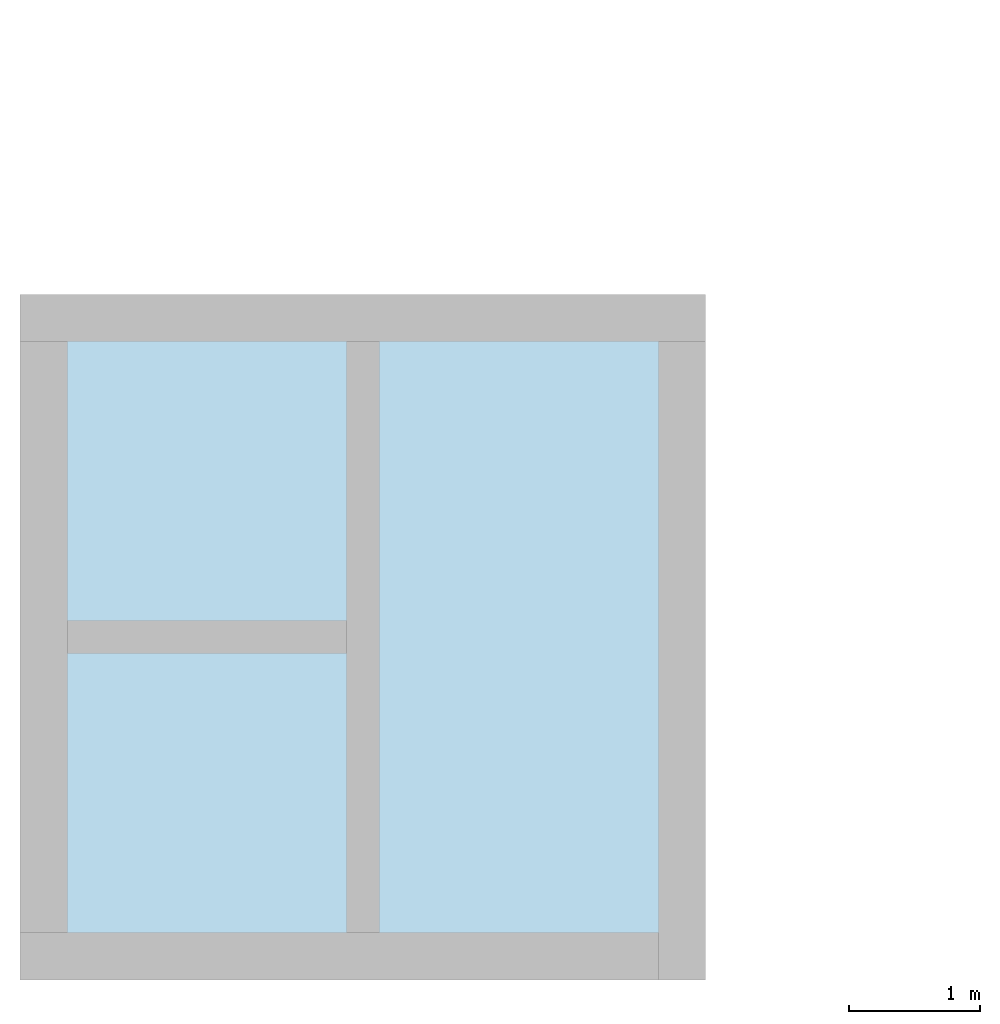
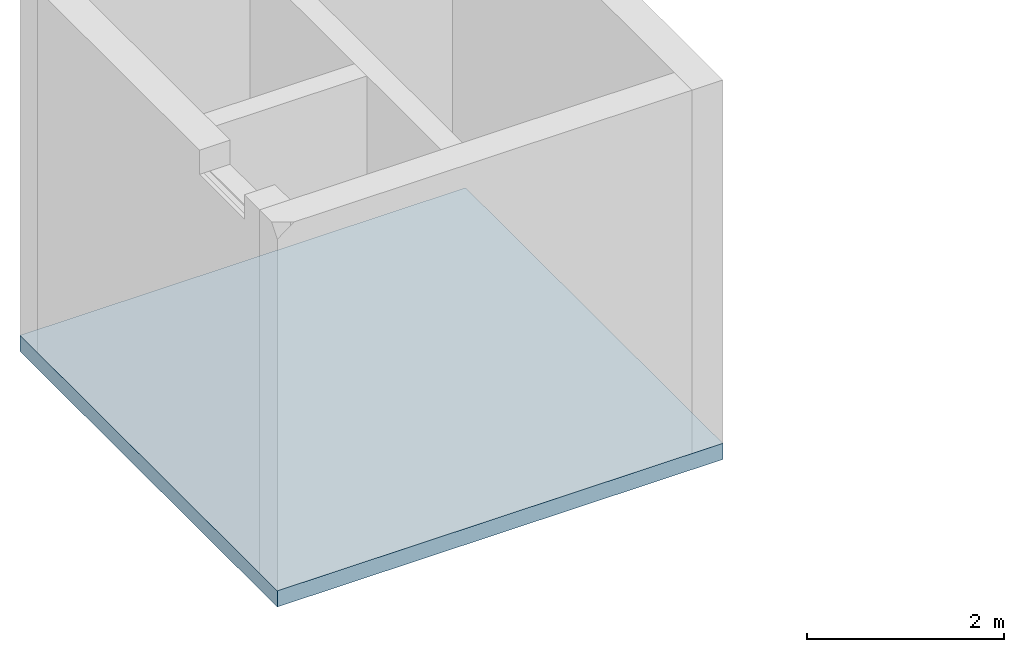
# One storey, part 2 of 5: 1 slab.
"""IFC2X3 building model written with IfcOpenShell, lengths in millimetres."""

import ifcopenshell
import ifcopenshell.guid

model = None  # the IFC model being written
_history = None  # IfcOwnerHistory: only IFC2X3 demands one
_inside = {}  # id of a spatial element -> (the spatial element, [elements in it])
_under = {}  # id of a project, library or spatial element -> (it, [spatial elements below it])
_declared = {}  # id of a project -> (the project, [libraries it declares])
_typed = {}  # id of a type object -> (the type object, [elements of that type])
_made_of = {}  # id of a material, layer set ... -> (it, [elements and type objects made of it])


def new_model(schema):
    """Start an empty IFC model of exactly this schema.

    Asked for "IFC4X3", IfcOpenShell would pick the latest addendum, in which some entities
    have other attributes; the version numbers below select the first issue.
    IFC2X3 requires an IfcOwnerHistory on every rooted entity: one is made here for all.
    """
    global model, _history
    if schema == "IFC4X3":
        model = ifcopenshell.file(schema_version=(4, 3, 0, 0))
    else:
        model = ifcopenshell.file(schema=schema)
    _inside.clear()
    _under.clear()
    _declared.clear()
    _typed.clear()
    _made_of.clear()
    _history = None
    if model.schema == "IFC2X3":
        org = make("IfcOrganization", Name="unknown")
        user = make(
            "IfcPersonAndOrganization",
            ThePerson=make("IfcPerson", FamilyName="unknown"),
            TheOrganization=org,
        )
        app = make(
            "IfcApplication",
            ApplicationDeveloper=org,
            Version="unknown",
            ApplicationFullName="unknown",
            ApplicationIdentifier="unknown",
        )
        _history = make(
            "IfcOwnerHistory",
            OwningUser=user,
            OwningApplication=app,
            ChangeAction="ADDED",
            CreationDate=0,
        )
    return model


def make(cls, **values):
    """One entity of the class cls with the attributes given. An attribute that is None is left unset."""
    return model.create_entity(
        cls, **{name: value for name, value in values.items() if value is not None}
    )


def entity(cls, *values):
    """Any entity or typed value of the class cls, its attributes in the order of the schema. None: left unset."""
    e = model.create_entity(cls)
    for i, value in enumerate(values):
        if value is not None:
            e[i] = value
    return e


def rooted(cls, **values):
    """An entity with a GlobalId (a new one), such as an element, a storey or a relation."""
    return make(cls, GlobalId=ifcopenshell.guid.new(), OwnerHistory=_history, **values)


def si_unit(unit_type, name, prefix=None):
    """IfcSIUnit, for example si_unit("LENGTHUNIT", "METRE", prefix="MILLI")."""
    return make("IfcSIUnit", UnitType=unit_type, Prefix=prefix, Name=name)


def converted_unit(unit_type, name, factor, base, dimensions=None, offset=None):
    """IfcConversionBasedUnit, such as the inch: factor (a typed value) times the base unit."""
    return make(
        "IfcConversionBasedUnit"
        if offset is None
        else "IfcConversionBasedUnitWithOffset",
        ConversionOffset=offset,
        Dimensions=None
        if dimensions is None
        else entity("IfcDimensionalExponents", *dimensions),
        UnitType=unit_type,
        Name=name,
        ConversionFactor=make(
            "IfcMeasureWithUnit", ValueComponent=factor, UnitComponent=base
        ),
    )


def derived_unit(unit_type, elements):
    """IfcDerivedUnit: a product of units, each with its exponent."""
    return make(
        "IfcDerivedUnit",
        Elements=[
            make("IfcDerivedUnitElement", Unit=unit, Exponent=power)
            for unit, power in elements
        ],
        UnitType=unit_type,
    )


def assignment(units):
    """IfcUnitAssignment: the units of a project."""
    return None if units is None else make("IfcUnitAssignment", Units=units)


def point(xyz):
    """IfcCartesianPoint."""
    return None if xyz is None else make("IfcCartesianPoint", Coordinates=xyz)


def direction(xyz):
    """IfcDirection."""
    return None if xyz is None else make("IfcDirection", DirectionRatios=xyz)


def frame(location, z_axis=None, x_axis=None):
    """IfcAxis2Placement3D, a coordinate frame: its origin and axes. An axis left out is left unset."""
    return make(
        "IfcAxis2Placement3D",
        Location=point(location),
        Axis=direction(z_axis),
        RefDirection=direction(x_axis),
    )


def frame_2d(location, x_axis=None):
    """IfcAxis2Placement2D, a coordinate frame in the plane: its origin and x axis."""
    return make(
        "IfcAxis2Placement2D", Location=point(location), RefDirection=direction(x_axis)
    )


def origin():
    """The frame at (0, 0, 0) with its axes left unset."""
    return frame((0.0, 0.0, 0.0))


def place(relative_to, where):
    """IfcLocalPlacement: puts the frame where relative to a parent placement (None: the world)."""
    return make(
        "IfcLocalPlacement", PlacementRelTo=relative_to, RelativePlacement=where
    )


def context(
    kind, dimensions, precision=None, world=None, true_north=None, identifier=None
):
    """IfcGeometricRepresentationContext, for example the 3D "Model" context."""
    return make(
        "IfcGeometricRepresentationContext",
        ContextIdentifier=identifier,
        ContextType=kind,
        CoordinateSpaceDimension=dimensions,
        Precision=precision,
        WorldCoordinateSystem=world,
        TrueNorth=true_north,
    )


def subcontext(parent, identifier, kind, view, scale=None):
    """IfcGeometricRepresentationSubContext, for example "Body" below "Model"."""
    return make(
        "IfcGeometricRepresentationSubContext",
        ContextIdentifier=identifier,
        ContextType=kind,
        ParentContext=parent,
        TargetScale=scale,
        TargetView=view,
    )


def project(units=None, contexts=None):
    """IfcProject with its units and contexts."""
    return rooted(
        "IfcProject",
        Name="project",
        RepresentationContexts=contexts,
        UnitsInContext=assignment(units),
    )


def spatial(cls, under=None, at=None, **own):
    """A site, building, storey or space (cls), placed at a placement, below another one or the project."""
    s = rooted(cls, ObjectPlacement=at, **own)
    if under is not None:
        _under.setdefault(under.id(), (under, []))[1].append(s)
    return s


def profile(cls, at=None, kind="AREA", **sizes):
    """A parametric profile (cls). Its sizes go by their IFC names, for example OverallWidth=200.0."""
    return make(cls, ProfileType=kind, Position=at, **sizes)


def rectangle(**sizes):
    """IfcRectangleProfileDef."""
    return profile("IfcRectangleProfileDef", **sizes)


def extrude(swept, where, along, depth):
    """IfcExtrudedAreaSolid: the profile swept, set in the frame where, extruded along a direction by depth."""
    return make(
        "IfcExtrudedAreaSolid",
        SweptArea=swept,
        Position=where,
        ExtrudedDirection=direction(along),
        Depth=depth,
    )


def shape(context_of_items, identifier, shape_type, items):
    """IfcShapeRepresentation: the items that make up one representation, for example the "Body"."""
    return make(
        "IfcShapeRepresentation",
        ContextOfItems=context_of_items,
        RepresentationIdentifier=identifier,
        RepresentationType=shape_type,
        Items=items,
    )


def material(Name=None, Category=None):
    """IfcMaterial."""
    return make("IfcMaterial", Name=Name, Category=Category)


def layer(
    of_material, thickness, ventilated=None, Name=None, Category=None, Priority=None
):
    """IfcMaterialLayer: one layer of a wall or slab, of a material (None: an air gap)."""
    return make(
        "IfcMaterialLayer",
        Material=of_material,
        LayerThickness=thickness,
        IsVentilated=ventilated,
        Name=Name,
        Category=Category,
        Priority=Priority,
    )


def layer_set(layers, Name=None):
    """IfcMaterialLayerSet."""
    return make("IfcMaterialLayerSet", MaterialLayers=layers, LayerSetName=Name)


def layer_usage(for_layer_set, set_direction, sense, offset, extent=None):
    """IfcMaterialLayerSetUsage: how a layer set lies in its element."""
    return make(
        "IfcMaterialLayerSetUsage",
        ForLayerSet=for_layer_set,
        LayerSetDirection=set_direction,
        DirectionSense=sense,
        OffsetFromReferenceLine=offset,
        ReferenceExtent=extent,
    )


def made_of(thing, what):
    """Note that an element or type object is made of a material, layer set ...; save() writes the relation."""
    if what is not None:
        _made_of.setdefault(what.id(), (what, []))[1].append(thing)
    return thing


def type_object(cls, material=None, **own):
    """A type object (cls), such as IfcWallType, which elements share."""
    return made_of(rooted(cls, **own), material)


def element(
    cls,
    number,
    at=None,
    inside=None,
    cuts=None,
    type_object=None,
    material=None,
    context=None,
    identifier="Body",
    shape_type=None,
    held_by="IfcProductDefinitionShape",
    body=None,
    shapes=None,
    **own,
):
    """One element of the class cls, such as IfcWall. Its Tag is "e" and its number.

    at: its placement. inside: the storey or other place that contains it. cuts: it is an
    opening in that element (IfcRelVoidsElement). A single representation is given by context,
    identifier, shape_type and body (its items); several are given by shapes. held_by: the class
    of the entity that holds the representations. save() writes the other relations.
    """
    e = rooted(cls, Tag="e%d" % number, ObjectPlacement=at, **own)
    if body is not None:
        shapes = [shape(context, identifier, shape_type, body)]
    if shapes is not None:
        e.Representation = make(held_by, Representations=shapes)
    if inside is not None:
        _inside.setdefault(inside.id(), (inside, []))[1].append(e)
    if cuts is not None:
        rooted(
            "IfcRelVoidsElement", RelatingBuildingElement=cuts, RelatedOpeningElement=e
        )
    if type_object is not None:
        _typed.setdefault(type_object.id(), (type_object, []))[1].append(e)
    return made_of(e, material)


def aggregate(whole, parts):
    """IfcRelAggregates: a whole, such as a stair, and the parts it consists of."""
    return rooted("IfcRelAggregates", RelatingObject=whole, RelatedObjects=parts)


def save(model, path):
    """Write the relations noted so far, then the file.

    IfcRelAggregates (storeys below a building ...), IfcRelContainedInSpatialStructure (elements
    in a storey), IfcRelDefinesByType, IfcRelAssociatesMaterial and IfcRelDeclares: one each for
    every whole, place, type object, material and project.
    """
    for whole, parts in _under.values():
        aggregate(whole, parts)
    for where, things in _inside.values():
        rooted(
            "IfcRelContainedInSpatialStructure",
            RelatedElements=things,
            RelatingStructure=where,
        )
    for kind, things in _typed.values():
        rooted("IfcRelDefinesByType", RelatedObjects=things, RelatingType=kind)
    for what, things in _made_of.values():
        rooted("IfcRelAssociatesMaterial", RelatedObjects=things, RelatingMaterial=what)
    for by, libraries in _declared.values():
        rooted("IfcRelDeclares", RelatingContext=by, RelatedDefinitions=libraries)
    model.write(path)


model = new_model("IFC2X3")

# Units and contexts
model_context = context("Model", 3, precision=0.01, world=origin(), true_north=direction((6.123031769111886e-17, 1.0)))
body_context = subcontext(model_context, "Body", "Model", "MODEL_VIEW")
ifc_project = project(units=[si_unit("LENGTHUNIT", "METRE", prefix="MILLI"), si_unit("AREAUNIT", "SQUARE_METRE"), si_unit("VOLUMEUNIT", "CUBIC_METRE"), converted_unit("PLANEANGLEUNIT", "DEGREE", entity("IfcRatioMeasure", 0.017453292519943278), si_unit("PLANEANGLEUNIT", "RADIAN"), dimensions=[0, 0, 0, 0, 0, 0, 0]), si_unit("MASSUNIT", "GRAM", prefix="KILO"), derived_unit("MASSDENSITYUNIT", [(si_unit("MASSUNIT", "GRAM", prefix="KILO"), 1), (si_unit("LENGTHUNIT", "METRE"), -3)]), derived_unit("IONCONCENTRATIONUNIT", [(si_unit("MASSUNIT", "GRAM", prefix="KILO"), 1), (si_unit("LENGTHUNIT", "METRE"), -3)]), derived_unit("MOMENTOFINERTIAUNIT", [(si_unit("LENGTHUNIT", "METRE"), 4)]), si_unit("TIMEUNIT", "SECOND"), si_unit("FREQUENCYUNIT", "HERTZ"), si_unit("THERMODYNAMICTEMPERATUREUNIT", "DEGREE_CELSIUS"), derived_unit("THERMALTRANSMITTANCEUNIT", [(si_unit("MASSUNIT", "GRAM", prefix="KILO"), 1), (si_unit("THERMODYNAMICTEMPERATUREUNIT", "KELVIN"), -1), (si_unit("TIMEUNIT", "SECOND"), -3)]), derived_unit("THERMALCONDUCTANCEUNIT", [(si_unit("MASSUNIT", "GRAM", prefix="KILO"), 1), (si_unit("THERMODYNAMICTEMPERATUREUNIT", "KELVIN"), -1), (si_unit("TIMEUNIT", "SECOND"), -3), (si_unit("LENGTHUNIT", "METRE"), 1)]), derived_unit("VOLUMETRICFLOWRATEUNIT", [(si_unit("LENGTHUNIT", "METRE"), 3), (si_unit("TIMEUNIT", "SECOND"), -1)]), derived_unit("MASSFLOWRATEUNIT", [(si_unit("MASSUNIT", "GRAM", prefix="KILO"), 1), (si_unit("TIMEUNIT", "SECOND"), -1)]), derived_unit("ROTATIONALFREQUENCYUNIT", [(si_unit("TIMEUNIT", "SECOND"), -1)]), si_unit("ELECTRICCURRENTUNIT", "AMPERE"), si_unit("ELECTRICVOLTAGEUNIT", "VOLT"), si_unit("POWERUNIT", "WATT"), si_unit("FORCEUNIT", "NEWTON", prefix="KILO"), si_unit("ILLUMINANCEUNIT", "LUX"), si_unit("LUMINOUSFLUXUNIT", "LUMEN"), si_unit("LUMINOUSINTENSITYUNIT", "CANDELA"), derived_unit("USERDEFINED", [(si_unit("MASSUNIT", "GRAM", prefix="KILO"), -1), (si_unit("LENGTHUNIT", "METRE"), -2), (si_unit("TIMEUNIT", "SECOND"), 3), (si_unit("LUMINOUSFLUXUNIT", "LUMEN"), 1)]), derived_unit("USERDEFINED", [(si_unit("MASSUNIT", "GRAM", prefix="KILO"), 1), (si_unit("TIMEUNIT", "SECOND"), -3), (si_unit("LENGTHUNIT", "METRE"), 3), (si_unit("ELECTRICCURRENTUNIT", "AMPERE"), -2)]), derived_unit("SOUNDPOWERUNIT", [(si_unit("MASSUNIT", "GRAM", prefix="KILO"), 1), (si_unit("TIMEUNIT", "SECOND"), -3), (si_unit("LENGTHUNIT", "METRE"), 2)]), derived_unit("SOUNDPRESSUREUNIT", [(si_unit("MASSUNIT", "GRAM", prefix="KILO"), 1), (si_unit("LENGTHUNIT", "METRE"), -1), (si_unit("TIMEUNIT", "SECOND"), -2)]), derived_unit("LINEARVELOCITYUNIT", [(si_unit("LENGTHUNIT", "METRE"), 1), (si_unit("TIMEUNIT", "SECOND"), -1)]), si_unit("PRESSUREUNIT", "PASCAL"), derived_unit("USERDEFINED", [(si_unit("MASSUNIT", "GRAM", prefix="KILO"), 1), (si_unit("LENGTHUNIT", "METRE"), -2), (si_unit("TIMEUNIT", "SECOND"), -2)]), derived_unit("LINEARFORCEUNIT", [(si_unit("MASSUNIT", "GRAM", prefix="KILO"), 1), (si_unit("TIMEUNIT", "SECOND"), -2)]), derived_unit("PLANARFORCEUNIT", [(si_unit("MASSUNIT", "GRAM", prefix="KILO"), 1), (si_unit("LENGTHUNIT", "METRE"), -1), (si_unit("TIMEUNIT", "SECOND"), -2)]), derived_unit("SPECIFICHEATCAPACITYUNIT", [(si_unit("THERMODYNAMICTEMPERATUREUNIT", "KELVIN"), -1), (si_unit("LENGTHUNIT", "METRE"), 2), (si_unit("TIMEUNIT", "SECOND"), -2)]), derived_unit("HEATINGVALUEUNIT", [(si_unit("LENGTHUNIT", "METRE"), 2), (si_unit("TIMEUNIT", "SECOND"), -2)]), derived_unit("VAPORPERMEABILITYUNIT", [(si_unit("LENGTHUNIT", "METRE"), -1), (si_unit("TIMEUNIT", "SECOND"), 1)]), derived_unit("DYNAMICVISCOSITYUNIT", [(si_unit("MASSUNIT", "GRAM", prefix="KILO"), 1), (si_unit("TIMEUNIT", "SECOND"), -1), (si_unit("LENGTHUNIT", "METRE"), -1)]), derived_unit("THERMALEXPANSIONCOEFFICIENTUNIT", [(si_unit("THERMODYNAMICTEMPERATUREUNIT", "KELVIN"), -1)]), derived_unit("MODULUSOFELASTICITYUNIT", [(si_unit("MASSUNIT", "GRAM", prefix="KILO"), 1), (si_unit("LENGTHUNIT", "METRE"), -1), (si_unit("TIMEUNIT", "SECOND"), -2)]), derived_unit("ISOTHERMALMOISTURECAPACITYUNIT", [(si_unit("LENGTHUNIT", "METRE"), 3), (si_unit("MASSUNIT", "GRAM", prefix="KILO"), -1)]), derived_unit("MOISTUREDIFFUSIVITYUNIT", [(si_unit("TIMEUNIT", "SECOND"), -1), (si_unit("LENGTHUNIT", "METRE"), 2)])], contexts=[model_context])

# Site, building, storey
site_placement = place(None, origin())
site = spatial("IfcSite", under=ifc_project, at=site_placement, Name="IFCSITE", CompositionType="ELEMENT")
building_placement = place(site_placement, origin())
building = spatial("IfcBuilding", under=site, at=building_placement, CompositionType="ELEMENT")
storey_placement = place(building_placement, origin())
storey = spatial("IfcBuildingStorey", under=building, at=storey_placement, Name="Plan 01", CompositionType="ELEMENT", Elevation=0.0)

# Slab
ifc_material = material(Name="Betong - Plasstøpt")
ifc_layer = layer(ifc_material, 200.0)
ifc_layer_set = layer_set([ifc_layer], Name="Floor:Standard 200mm")
ifc_layer_usage = layer_usage(ifc_layer_set, "AXIS3", "POSITIVE", 0.0)
slab_type = type_object("IfcSlabType", Name="Floor:Standard 200mm", PredefinedType="FLOOR", material=ifc_layer_set)
slab_placement = place(storey_placement, origin())
element("IfcSlab", 1, at=slab_placement, inside=storey, type_object=slab_type, material=ifc_layer_usage, Name="Floor:Standard 200mm", ObjectType="Floor:Standard 200mm", PredefinedType="FLOOR", context=body_context, shape_type="SweptSolid", body=[
    extrude(rectangle(XDim=5220.00000000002, YDim=5219.999999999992, at=frame_2d((-1.1368683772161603e-12, 0.0), x_axis=(1.0, 0.0))), frame((-57727.51337892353, -12228.925170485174, 0.0), z_axis=(0.0, 0.0, -1.0), x_axis=(0.0, 1.0, 0.0)), (0.0, 0.0, 1.0), 200.0),
])

save(model, "model.ifc")
